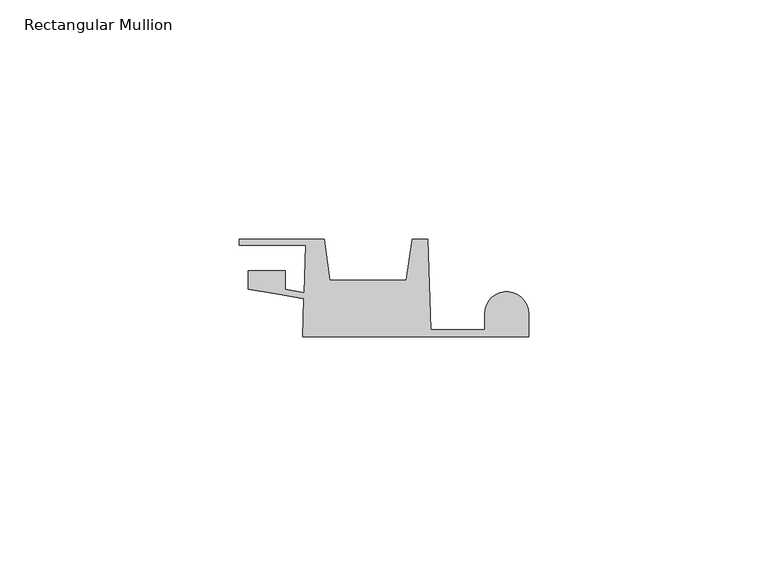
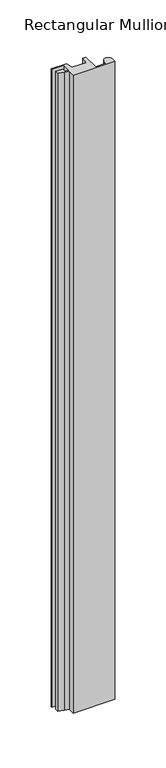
"""IFC4 building model written with IfcOpenShell, lengths in millimetres: member geometry, Rectangular Mullion : QuickPanel-Reveal_Multi-Angle-Inside-Corner-Trim-Left."""

from ifc_helpers import new_model, si_unit, point, frame, frame_2d, origin, place, context, project, spatial, polyline, circle_curve, trimmed, segment, composite_curve, outline, extrude, source, transform, mapped, element, save


def rectangular_mullion_456614dd(model_context):
    return source(origin(), model_context, "Body", "SweptSolid", [
        extrude(outline(composite_curve([segment(polyline([(-47.1501229, -8.095605), (-46.8743766, -0.1992641), (-52.1246575, 0.7008023), (-58.5599901, 1.8040245), (-58.5599901, 5.6493034), (-50.815217, 5.6493034), (-50.815217, 1.7648465), (-46.8296481, 1.0815922), (-46.485721, 10.9303752), (-60.3420745, 10.9303752), (-60.3420745, 12.1803727), (-42.6931018, 12.1803727), (-41.5043841, 3.7222065), (-25.4912576, 3.7222065), (-24.3025399, 12.1803727), (-21.0443089, 12.1803727), (-20.3850086, -6.6995181), (-9.144, -6.6995181), (-9.144, -3.3003083)]), True, "CONTINUOUS"), segment(trimmed(circle_curve(frame_2d((-4.572, -3.3003083)), 4.572), [point((-9.144, -3.3003083))], [point((0.0, -3.3003083))], False, "CARTESIAN"), True, "CONTINUOUS"), segment(polyline([(0.0, -3.3003083), (0.0, -8.095605), (-47.1501229, -8.095605)]), True, "CONTINUOUS")], self_intersect=False)), frame((0.0, 0.0, -763.4314025), z_axis=(0.0, 0.0, 1.0), x_axis=(1.0, 0.0, 0.0)), (0.0, 0.0, 1.0), 763.4314025),
    ])


if __name__ == "__main__":
    model = new_model("IFC4")
    model_context = context("Model", 3, world=origin())
    ifc_project = project(units=[si_unit("LENGTHUNIT", "METRE", prefix="MILLI")], contexts=[model_context])
    site = spatial("IfcSite", under=ifc_project)
    building = spatial("IfcBuilding", under=site)
    placement = place(None, origin())
    rectangular_mullion_shape = rectangular_mullion_456614dd(model_context)
    element("IfcMember", 1, ObjectType="Rectangular Mullion : QuickPanel-Reveal_Multi-Angle-Inside-Corner-Trim-Left", at=placement, inside=building, context=model_context, shape_type="MappedRepresentation", body=[
        mapped(rectangular_mullion_shape, transform((0.0, 0.0, 0.0), x_axis=(1.0, 0.0, 0.0), y_axis=(0.0, 1.0, 0.0), z_axis=(0.0, 0.0, 1.0))),
    ])
    save(model, "model.ifc")
